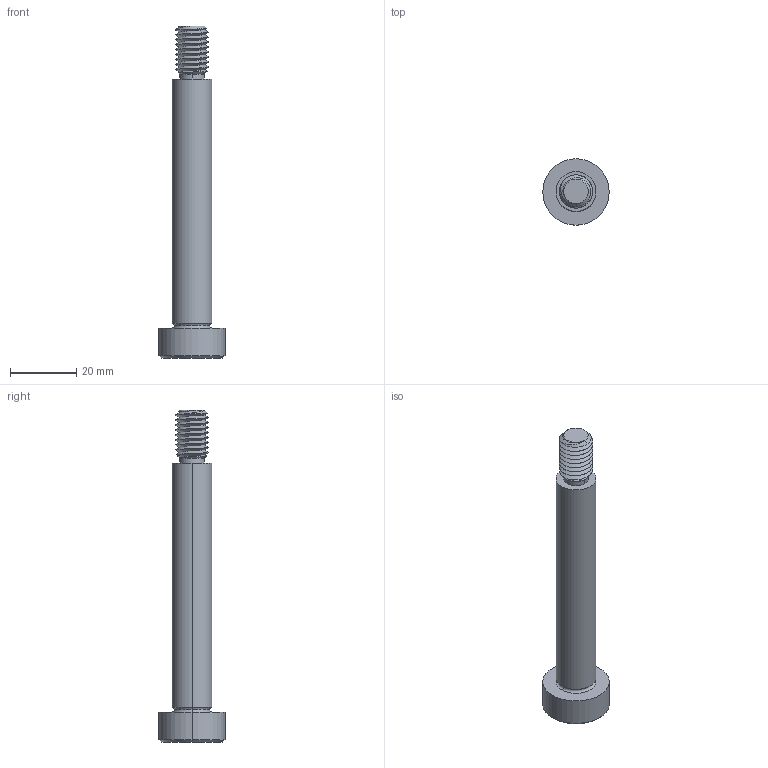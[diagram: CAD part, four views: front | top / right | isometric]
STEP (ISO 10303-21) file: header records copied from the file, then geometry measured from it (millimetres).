
FILE_DESCRIPTION (( 'STEP AP203' ), '1' );
FILE_NAME ('P0130.120-075-B2.step', '2021-11-09T22:10:26', ( '' ), ( '' ), 'SwSTEP 2.0', 'SolidWorks 2019', '' );
FILE_SCHEMA (( 'CONFIG_CONTROL_DESIGN' ));
Length unit declared in the file: millimetre
Products named in the file (1): P0130.120-075-B2
Bounding box: 20 x 20 x 100 mm (x, y, z)
Volume: 11970.6 mm3; surface area: 4947.5 mm2
Topology: 1 solids, 1 shells, 60 faces, 142 edges, 85 vertices
Faces by surface type: cylinder 23, plane 16, cone 15, torus 4, bspline 2
Entity records: 3534 total; most frequent: CARTESIAN_POINT 2187, ORIENTED_EDGE 280, DIRECTION 247, EDGE_CURVE 140, AXIS2_PLACEMENT_3D 99, VERTEX_POINT 85, EDGE_LOOP 63, FACE_OUTER_BOUND 60
